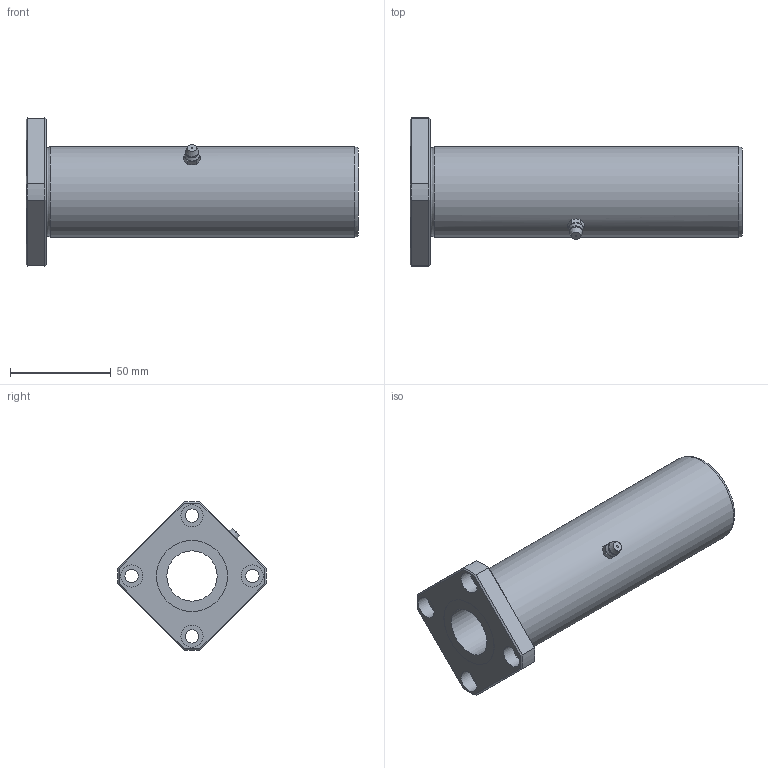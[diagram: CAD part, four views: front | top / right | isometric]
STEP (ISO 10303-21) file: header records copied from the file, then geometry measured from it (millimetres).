
FILE_DESCRIPTION((''),'2;1');
FILE_NAME('D:\製品 (図面)\カタログ用3D\リニアベアリング関連\STEP形式\LFLK\LFLK25.stp','2010-06-04T09:09:14',('Tsuchiya'),(''),'Autodesk Inventor 10','Autodesk Inventor 10','');
FILE_SCHEMA(('AUTOMOTIVE_DESIGN { 1 0 10303 214 1 1 1 1 }'));
Length unit declared in the file: millimetre
Products named in the file (1): LFLK25
Bounding box: 165 x 73.95 x 73.95 mm (x, y, z)
Volume: 195442.2 mm3; surface area: 43579 mm2
Topology: 1 solids, 1 shells, 76 faces, 159 edges, 94 vertices
Faces by surface type: plane 31, cone 21, cylinder 18, bspline 3, sphere 2, torus 1
Full cylindrical faces by diameter (mm): 6.6 x4, 11 x4, 25 x1, 35.3 x2, 45 x1
Entity records: 2171 total; most frequent: CARTESIAN_POINT 657, DIRECTION 310, ORIENTED_EDGE 280, EDGE_CURVE 140, AXIS2_PLACEMENT_3D 138, EDGE_LOOP 114, VERTEX_POINT 92, FACE_OUTER_BOUND 76
